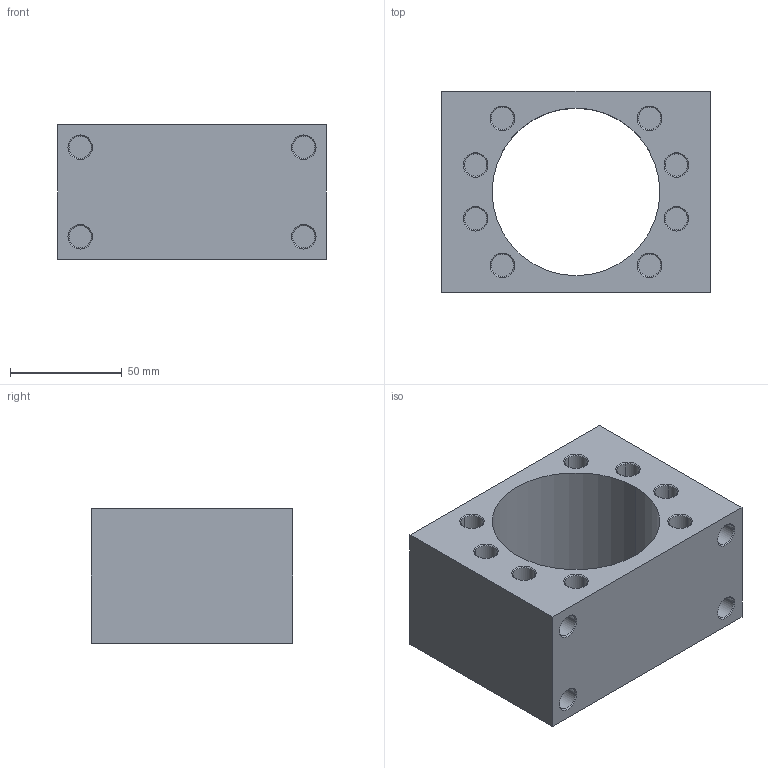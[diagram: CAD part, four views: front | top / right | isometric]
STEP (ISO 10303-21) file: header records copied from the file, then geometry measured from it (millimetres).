
FILE_DESCRIPTION (( 'STEP AP214' ), '1' );
FILE_NAME ('DSG50H.STEP', '2022-04-21T10:34:52', ( '' ), ( '' ), 'SwSTEP 2.0', 'SolidWorks 2019', '' );
FILE_SCHEMA (( 'AUTOMOTIVE_DESIGN' ));
Length unit declared in the file: millimetre
Products named in the file (1): DSG50H
Bounding box: 120 x 90 x 60 mm (x, y, z)
Volume: 365255.1 mm3; surface area: 59044.7 mm2
Topology: 1 solids, 1 shells, 68 faces, 146 edges, 92 vertices
Faces by surface type: cylinder 26, cone 24, plane 18
Entity records: 2168 total; most frequent: DIRECTION 368, CARTESIAN_POINT 307, ORIENTED_EDGE 292, AXIS2_PLACEMENT_3D 153, EDGE_CURVE 146, VERTEX_POINT 92, CIRCLE 84, EDGE_LOOP 82
